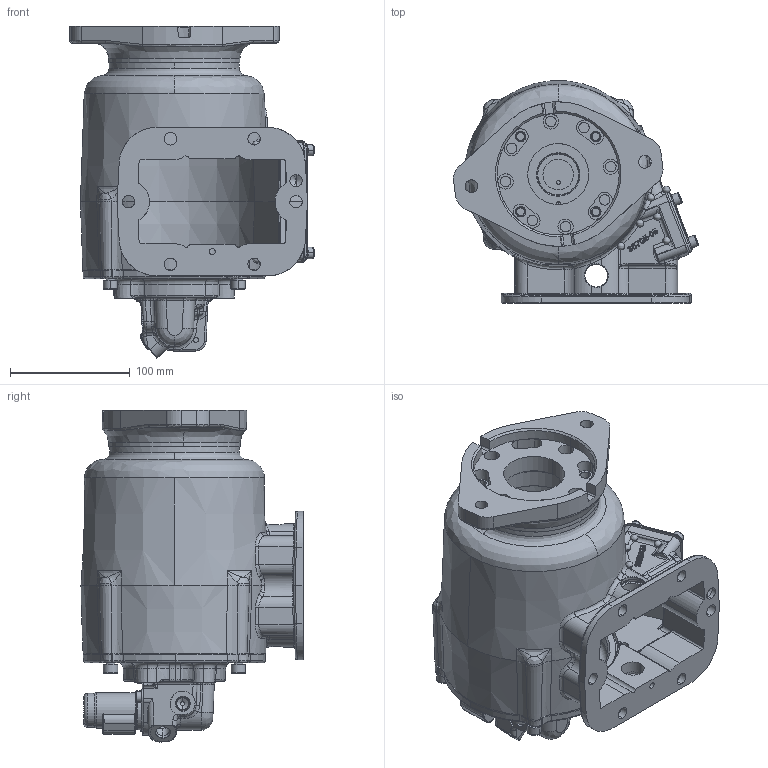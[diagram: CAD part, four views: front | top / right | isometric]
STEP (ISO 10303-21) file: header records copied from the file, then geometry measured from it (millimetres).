
FILE_DESCRIPTION (( 'STEP AP203' ), '1' );
FILE_NAME ('CS6S-XXXXX-S3SX.STEP', '2023-04-11T13:19:47', ( '' ), ( '' ), 'SwSTEP 2.0', 'SolidWorks 2021', '' );
FILE_SCHEMA (( 'CONFIG_CONTROL_DESIGN' ));
Length unit declared in the file: inch
Products named in the file (9): 19T35237; 35T40860-2; 16T41119; 19T40859; 01T37072; CS6S-XXXXX-S3SX; 15T41597; 14T35464; 19T41118
Assembly tree (15 placements, depth 2):
  CS6S-XXXXX-S3SX
    01T37072
    16T41119
    14T35464
    19T35237  x4
    19T41118  x4
    15T41597
    35T40860-2
    19T40859  x2
Bounding box: 204.51 x 185.25 x 276.95 mm (x, y, z)
Volume: 1319197.5 mm3; surface area: 388903.5 mm2
Topology: 16 solids, 16 shells, 2153 faces, 5519 edges, 3402 vertices
Faces by surface type: bspline 778, cylinder 571, plane 500, cone 212, torus 88, sphere 4
Entity records: 143520 total; most frequent: CARTESIAN_POINT 100114, ORIENTED_EDGE 10120, DIRECTION 6567, EDGE_CURVE 5060, VERTEX_POINT 3187, AXIS2_PLACEMENT_3D 2394, EDGE_LOOP 2215, B_SPLINE_CURVE_WITH_KNOTS 2017
